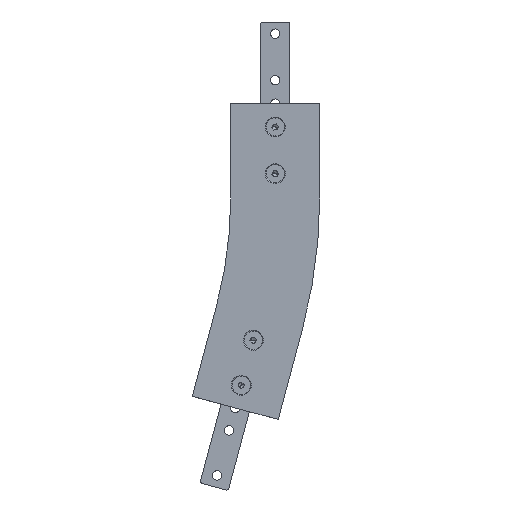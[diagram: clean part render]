
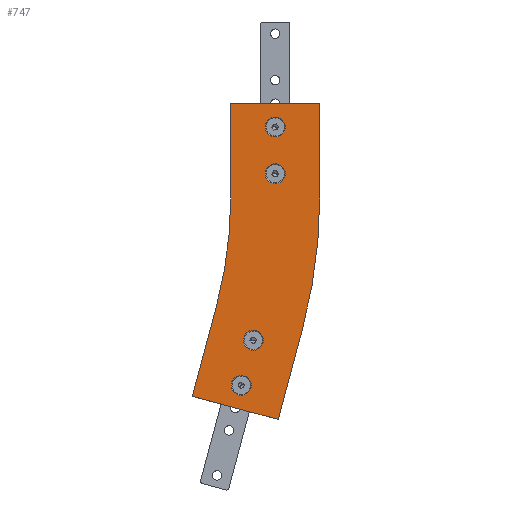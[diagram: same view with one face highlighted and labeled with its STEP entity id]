
A CAD part, left-side view. The second image highlights one B-rep face of the part: STEP entity #747.
In plain terms, the highlighted planar face has unit normal (-1, 0, 0).
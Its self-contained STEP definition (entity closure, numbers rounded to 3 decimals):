
#34 = VERTEX_POINT ( 'NONE', #2043 ) ;
#35 = VERTEX_POINT ( 'NONE', #1914 ) ;
#37 = EDGE_CURVE ( 'NONE', #38, #35, #2101, .T. ) ;
#38 = VERTEX_POINT ( 'NONE', #2038 ) ;
#47 = VERTEX_POINT ( 'NONE', #1985 ) ;
#68 = EDGE_CURVE ( 'NONE', #47, #69, #2010, .T. ) ;
#69 = VERTEX_POINT ( 'NONE', #1941 ) ;
#89 = VERTEX_POINT ( 'NONE', #2071 ) ;
#95 = EDGE_CURVE ( 'NONE', #97, #114, #1998, .T. ) ;
#97 = VERTEX_POINT ( 'NONE', #2065 ) ;
#102 = EDGE_CURVE ( 'NONE', #103, #89, #2057, .T. ) ;
#103 = VERTEX_POINT ( 'NONE', #2052 ) ;
#114 = VERTEX_POINT ( 'NONE', #2145 ) ;
#117 = EDGE_CURVE ( 'NONE', #118, #34, #2144, .T. ) ;
#118 = VERTEX_POINT ( 'NONE', #2139 ) ;
#130 = ORIENTED_EDGE ( 'NONE', *, *, #37, .T. ) ;
#131 = ORIENTED_EDGE ( 'NONE', *, *, #132, .T. ) ;
#132 = EDGE_CURVE ( 'NONE', #35, #38, #2115, .T. ) ;
#133 = EDGE_LOOP ( 'NONE', ( #134, #136, #137, #521, #522, #524, #525, #526 ) ) ;
#134 = ORIENTED_EDGE ( 'NONE', *, *, #135, .F. ) ;
#135 = EDGE_CURVE ( 'NONE', #199, #742, #2110, .T. ) ;
#136 = ORIENTED_EDGE ( 'NONE', *, *, #178, .F. ) ;
#137 = ORIENTED_EDGE ( 'NONE', *, *, #193, .T. ) ;
#152 = EDGE_CURVE ( 'NONE', #207, #47, #1962, .T. ) ;
#162 = VERTEX_POINT ( 'NONE', #2356 ) ;
#178 = EDGE_CURVE ( 'NONE', #162, #199, #2235, .T. ) ;
#193 = EDGE_CURVE ( 'NONE', #162, #369, #2182, .T. ) ;
#199 = VERTEX_POINT ( 'NONE', #2166 ) ;
#207 = VERTEX_POINT ( 'NONE', #2199 ) ;
#369 = VERTEX_POINT ( 'NONE', #2439 ) ;
#375 = VERTEX_POINT ( 'NONE', #2429 ) ;
#377 = EDGE_CURVE ( 'NONE', #369, #375, #2428, .T. ) ;
#521 = ORIENTED_EDGE ( 'NONE', *, *, #377, .T. ) ;
#522 = ORIENTED_EDGE ( 'NONE', *, *, #523, .T. ) ;
#523 = EDGE_CURVE ( 'NONE', #375, #69, #2752, .T. ) ;
#524 = ORIENTED_EDGE ( 'NONE', *, *, #68, .F. ) ;
#525 = ORIENTED_EDGE ( 'NONE', *, *, #152, .F. ) ;
#526 = ORIENTED_EDGE ( 'NONE', *, *, #744, .T. ) ;
#723 = EDGE_LOOP ( 'NONE', ( #724, #725 ) ) ;
#724 = ORIENTED_EDGE ( 'NONE', *, *, #95, .T. ) ;
#725 = ORIENTED_EDGE ( 'NONE', *, *, #726, .T. ) ;
#726 = EDGE_CURVE ( 'NONE', #114, #97, #3281, .T. ) ;
#727 = EDGE_LOOP ( 'NONE', ( #728, #729 ) ) ;
#728 = ORIENTED_EDGE ( 'NONE', *, *, #102, .T. ) ;
#729 = ORIENTED_EDGE ( 'NONE', *, *, #730, .T. ) ;
#730 = EDGE_CURVE ( 'NONE', #89, #103, #3271, .T. ) ;
#731 = EDGE_LOOP ( 'NONE', ( #732, #733 ) ) ;
#732 = ORIENTED_EDGE ( 'NONE', *, *, #117, .T. ) ;
#733 = ORIENTED_EDGE ( 'NONE', *, *, #734, .T. ) ;
#734 = EDGE_CURVE ( 'NONE', #34, #118, #3265, .T. ) ;
#735 = EDGE_LOOP ( 'NONE', ( #130, #131 ) ) ;
#742 = VERTEX_POINT ( 'NONE', #3317 ) ;
#744 = EDGE_CURVE ( 'NONE', #207, #742, #3316, .T. ) ;
#747 = ADVANCED_FACE ( 'NONE', ( #3312, #3311, #3310, #3309, #3308 ), #3307, .T. ) ;
#1914 = CARTESIAN_POINT ( 'NONE',  ( 0., 67.309, -249.983 ) ) ;
#1941 = CARTESIAN_POINT ( 'NONE',  ( 0., 35.635, -270.676 ) ) ;
#1958 = DIRECTION ( 'NONE',  ( 0., 0., -1. ) ) ;
#1959 = DIRECTION ( 'NONE',  ( 1., 0., 0. ) ) ;
#1960 = CARTESIAN_POINT ( 'NONE',  ( 0., 438.15, -80. ) ) ;
#1961 = AXIS2_PLACEMENT_3D ( 'NONE', #1960, #1959, #1958 ) ;
#1962 = CIRCLE ( 'NONE', #1961, 438.15 ) ;
#1985 = CARTESIAN_POINT ( 'NONE',  ( 0., 14.93, -193.402 ) ) ;
#1994 = DIRECTION ( 'NONE',  ( 0., 0., 1. ) ) ;
#1995 = DIRECTION ( 'NONE',  ( 1., 0., 0. ) ) ;
#1996 = CARTESIAN_POINT ( 'NONE',  ( 0., 38.15, -20. ) ) ;
#1997 = AXIS2_PLACEMENT_3D ( 'NONE', #1996, #1995, #1994 ) ;
#1998 = CIRCLE ( 'NONE', #1997, 8.5 ) ;
#2007 = DIRECTION ( 'NONE',  ( 0., 0.259, -0.966 ) ) ;
#2008 = VECTOR ( 'NONE', #2007, 1000. ) ;
#2009 = CARTESIAN_POINT ( 'NONE',  ( 0., 14.93, -193.402 ) ) ;
#2010 = LINE ( 'NONE', #2009, #2008 ) ;
#2038 = CARTESIAN_POINT ( 'NONE',  ( 0., 67.309, -232.983 ) ) ;
#2043 = CARTESIAN_POINT ( 'NONE',  ( 0., 56.956, -211.346 ) ) ;
#2052 = CARTESIAN_POINT ( 'NONE',  ( 0., 38.15, -51.5 ) ) ;
#2053 = DIRECTION ( 'NONE',  ( 0., 0., 1. ) ) ;
#2054 = DIRECTION ( 'NONE',  ( 1., 0., 0. ) ) ;
#2055 = CARTESIAN_POINT ( 'NONE',  ( 0., 38.15, -60. ) ) ;
#2056 = AXIS2_PLACEMENT_3D ( 'NONE', #2055, #2054, #2053 ) ;
#2057 = CIRCLE ( 'NONE', #2056, 8.5 ) ;
#2065 = CARTESIAN_POINT ( 'NONE',  ( 0., 38.15, -11.5 ) ) ;
#2071 = CARTESIAN_POINT ( 'NONE',  ( 0., 38.15, -68.5 ) ) ;
#2097 = DIRECTION ( 'NONE',  ( 0., 0., 1. ) ) ;
#2098 = DIRECTION ( 'NONE',  ( 1., 0., 0. ) ) ;
#2099 = CARTESIAN_POINT ( 'NONE',  ( 0., 67.309, -241.483 ) ) ;
#2100 = AXIS2_PLACEMENT_3D ( 'NONE', #2099, #2098, #2097 ) ;
#2101 = CIRCLE ( 'NONE', #2100, 8.5 ) ;
#2107 = DIRECTION ( 'NONE',  ( 0., -1., 0. ) ) ;
#2108 = VECTOR ( 'NONE', #2107, 1000. ) ;
#2109 = CARTESIAN_POINT ( 'NONE',  ( 0., 76.3, 0. ) ) ;
#2110 = LINE ( 'NONE', #2109, #2108 ) ;
#2111 = DIRECTION ( 'NONE',  ( 0., 0., 1. ) ) ;
#2112 = DIRECTION ( 'NONE',  ( 1., 0., 0. ) ) ;
#2113 = CARTESIAN_POINT ( 'NONE',  ( 0., 67.309, -241.483 ) ) ;
#2114 = AXIS2_PLACEMENT_3D ( 'NONE', #2113, #2112, #2111 ) ;
#2115 = CIRCLE ( 'NONE', #2114, 8.5 ) ;
#2139 = CARTESIAN_POINT ( 'NONE',  ( 0., 56.956, -194.346 ) ) ;
#2140 = DIRECTION ( 'NONE',  ( 0., 0., 1. ) ) ;
#2141 = DIRECTION ( 'NONE',  ( 1., 0., 0. ) ) ;
#2142 = CARTESIAN_POINT ( 'NONE',  ( 0., 56.956, -202.846 ) ) ;
#2143 = AXIS2_PLACEMENT_3D ( 'NONE', #2142, #2141, #2140 ) ;
#2144 = CIRCLE ( 'NONE', #2143, 8.5 ) ;
#2145 = CARTESIAN_POINT ( 'NONE',  ( 0., 38.15, -28.5 ) ) ;
#2166 = CARTESIAN_POINT ( 'NONE',  ( 0., 76.3, 0. ) ) ;
#2178 = DIRECTION ( 'NONE',  ( 0., 0., -1. ) ) ;
#2179 = DIRECTION ( 'NONE',  ( 1., 0., 0. ) ) ;
#2180 = CARTESIAN_POINT ( 'NONE',  ( 0., 438.15, -80. ) ) ;
#2181 = AXIS2_PLACEMENT_3D ( 'NONE', #2180, #2179, #2178 ) ;
#2182 = CIRCLE ( 'NONE', #2181, 361.85 ) ;
#2199 = CARTESIAN_POINT ( 'NONE',  ( 0., 0., -80. ) ) ;
#2232 = DIRECTION ( 'NONE',  ( 0., 0., 1. ) ) ;
#2233 = VECTOR ( 'NONE', #2232, 1000. ) ;
#2234 = CARTESIAN_POINT ( 'NONE',  ( 0., 76.3, -80. ) ) ;
#2235 = LINE ( 'NONE', #2234, #2233 ) ;
#2356 = CARTESIAN_POINT ( 'NONE',  ( 0., 76.3, -80. ) ) ;
#2427 = CARTESIAN_POINT ( 'NONE',  ( 0., 88.63, -173.654 ) ) ;
#2428 = LINE ( 'NONE', #2427, #2479 ) ;
#2429 = CARTESIAN_POINT ( 'NONE',  ( 0., 109.335, -250.928 ) ) ;
#2439 = CARTESIAN_POINT ( 'NONE',  ( 0., 88.63, -173.654 ) ) ;
#2478 = DIRECTION ( 'NONE',  ( 0., 0.259, -0.966 ) ) ;
#2479 = VECTOR ( 'NONE', #2478, 1000. ) ;
#2749 = DIRECTION ( 'NONE',  ( 0., -0.966, -0.259 ) ) ;
#2750 = VECTOR ( 'NONE', #2749, 1000. ) ;
#2751 = CARTESIAN_POINT ( 'NONE',  ( 0., 109.335, -250.928 ) ) ;
#2752 = LINE ( 'NONE', #2751, #2750 ) ;
#3261 = DIRECTION ( 'NONE',  ( 0., 0., 1. ) ) ;
#3262 = DIRECTION ( 'NONE',  ( 1., 0., 0. ) ) ;
#3263 = CARTESIAN_POINT ( 'NONE',  ( 0., 56.956, -202.846 ) ) ;
#3264 = AXIS2_PLACEMENT_3D ( 'NONE', #3263, #3262, #3261 ) ;
#3265 = CIRCLE ( 'NONE', #3264, 8.5 ) ;
#3267 = DIRECTION ( 'NONE',  ( 0., 0., 1. ) ) ;
#3268 = DIRECTION ( 'NONE',  ( 1., 0., 0. ) ) ;
#3269 = CARTESIAN_POINT ( 'NONE',  ( 0., 38.15, -60. ) ) ;
#3270 = AXIS2_PLACEMENT_3D ( 'NONE', #3269, #3268, #3267 ) ;
#3271 = CIRCLE ( 'NONE', #3270, 8.5 ) ;
#3272 = DIRECTION ( 'NONE',  ( 0., 0., 1. ) ) ;
#3273 = DIRECTION ( 'NONE',  ( 1., 0., 0. ) ) ;
#3274 = CARTESIAN_POINT ( 'NONE',  ( 0., 38.15, -20. ) ) ;
#3275 = AXIS2_PLACEMENT_3D ( 'NONE', #3274, #3273, #3272 ) ;
#3281 = CIRCLE ( 'NONE', #3275, 8.5 ) ;
#3302 = DIRECTION ( 'NONE',  ( 0., 0., 1. ) ) ;
#3303 = DIRECTION ( 'NONE',  ( -1., 0., 0. ) ) ;
#3304 = AXIS2_PLACEMENT_3D ( 'NONE', #3306, #3303, #3302 ) ;
#3306 = CARTESIAN_POINT ( 'NONE',  ( 0., 76.3, -80. ) ) ;
#3307 = PLANE ( 'NONE',  #3304 ) ;
#3308 = FACE_OUTER_BOUND ( 'NONE', #133, .T. ) ;
#3309 = FACE_BOUND ( 'NONE', #735, .T. ) ;
#3310 = FACE_BOUND ( 'NONE', #731, .T. ) ;
#3311 = FACE_BOUND ( 'NONE', #727, .T. ) ;
#3312 = FACE_BOUND ( 'NONE', #723, .T. ) ;
#3313 = DIRECTION ( 'NONE',  ( 0., 0., 1. ) ) ;
#3314 = VECTOR ( 'NONE', #3313, 1000. ) ;
#3315 = CARTESIAN_POINT ( 'NONE',  ( 0., 0., -80. ) ) ;
#3316 = LINE ( 'NONE', #3315, #3314 ) ;
#3317 = CARTESIAN_POINT ( 'NONE',  ( 0., 0., 0. ) ) ;
